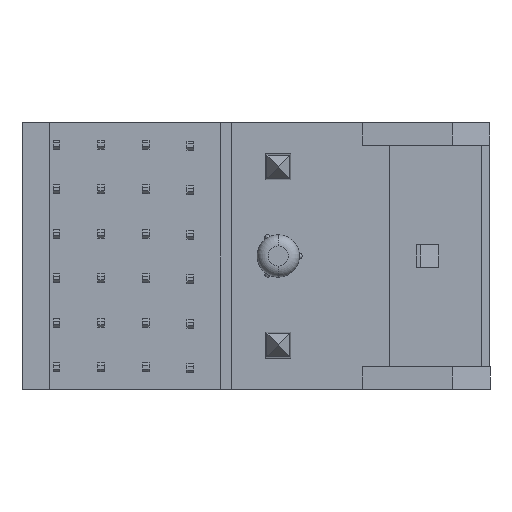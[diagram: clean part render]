
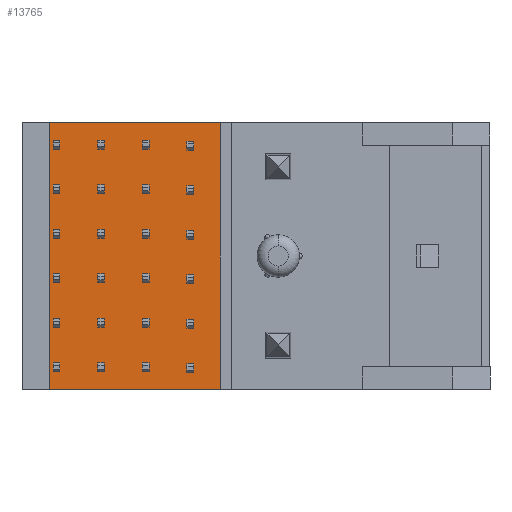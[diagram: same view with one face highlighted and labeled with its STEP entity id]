
A CAD part, left-side view. The second image highlights one B-rep face of the part: STEP entity #13765.
In plain terms, the highlighted planar face has unit normal (-1, 0, 0) as drawn and (0, -1, 0) by its records, which use the part's own axes.
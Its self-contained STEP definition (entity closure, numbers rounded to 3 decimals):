
#47 = EDGE_CURVE ( 'NONE', #10540, #10501, #1177, .T. ) ;
#57 = EDGE_CURVE ( 'NONE', #10501, #10515, #1230, .T. ) ;
#66 = EDGE_CURVE ( 'NONE', #10515, #10499, #1257, .T. ) ;
#67 = EDGE_CURVE ( 'NONE', #10499, #10540, #1260, .T. ) ;
#910 = ORIENTED_EDGE ( 'NONE', *, *, #66, .T. ) ;
#911 = ORIENTED_EDGE ( 'NONE', *, *, #67, .T. ) ;
#912 = ORIENTED_EDGE ( 'NONE', *, *, #47, .T. ) ;
#913 = ORIENTED_EDGE ( 'NONE', *, *, #57, .T. ) ;
#1177 = LINE ( 'NONE', #1201, #7275 ) ;
#1201 = CARTESIAN_POINT ( 'NONE',  ( 12.1, -8.6, -5.975 ) ) ;
#1202 = DIRECTION ( 'NONE',  ( 1., 0., 0. ) ) ;
#1230 = LINE ( 'NONE', #1231, #7296 ) ;
#1231 = CARTESIAN_POINT ( 'NONE',  ( 19.775, -8.6, 5.975 ) ) ;
#1232 = DIRECTION ( 'NONE',  ( 0., 0., 1. ) ) ;
#1257 = LINE ( 'NONE', #1258, #7272 ) ;
#1258 = CARTESIAN_POINT ( 'NONE',  ( 12.1, -8.6, 5.975 ) ) ;
#1259 = DIRECTION ( 'NONE',  ( -1., 0., 0. ) ) ;
#1260 = LINE ( 'NONE', #1261, #7267 ) ;
#1261 = CARTESIAN_POINT ( 'NONE',  ( 12.1, -8.6, 5.975 ) ) ;
#1262 = DIRECTION ( 'NONE',  ( 0., 0., -1. ) ) ;
#3640 = CARTESIAN_POINT ( 'NONE',  ( 12.1, -8.6, 5.975 ) ) ;
#3642 = CARTESIAN_POINT ( 'NONE',  ( 19.775, -8.6, -5.975 ) ) ;
#3656 = CARTESIAN_POINT ( 'NONE',  ( 19.775, -8.6, 5.975 ) ) ;
#3681 = CARTESIAN_POINT ( 'NONE',  ( 12.1, -8.6, -5.975 ) ) ;
#7267 = VECTOR ( 'NONE', #1262, 1000. ) ;
#7272 = VECTOR ( 'NONE', #1259, 1000. ) ;
#7275 = VECTOR ( 'NONE', #1202, 1000. ) ;
#7296 = VECTOR ( 'NONE', #1232, 1000. ) ;
#8786 = AXIS2_PLACEMENT_3D ( 'NONE', #9554, #9555, #9556 ) ;
#9529 = PLANE ( 'NONE',  #8786 ) ;
#9544 = FACE_OUTER_BOUND ( 'NONE', #13995, .T. ) ;
#9554 = CARTESIAN_POINT ( 'NONE',  ( 12.1, -8.6, 5.975 ) ) ;
#9555 = DIRECTION ( 'NONE',  ( 0., -1., 0. ) ) ;
#9556 = DIRECTION ( 'NONE',  ( 0., 0., -1. ) ) ;
#10499 = VERTEX_POINT ( 'NONE', #3640 ) ;
#10501 = VERTEX_POINT ( 'NONE', #3642 ) ;
#10515 = VERTEX_POINT ( 'NONE', #3656 ) ;
#10540 = VERTEX_POINT ( 'NONE', #3681 ) ;
#13765 = ADVANCED_FACE ( 'NONE', ( #9544 ), #9529, .T. ) ;
#13995 = EDGE_LOOP ( 'NONE', ( #910, #911, #912, #913 ) ) ;
